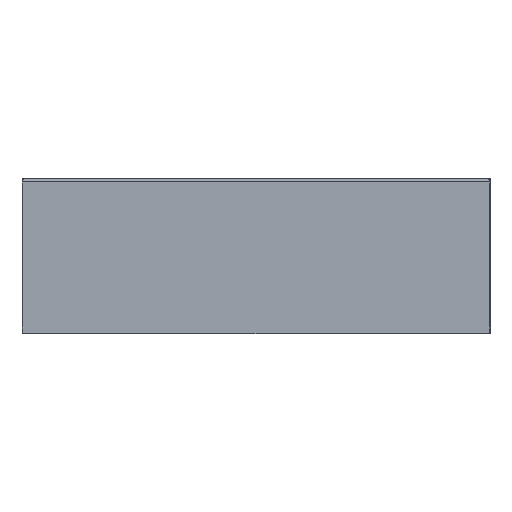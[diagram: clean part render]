
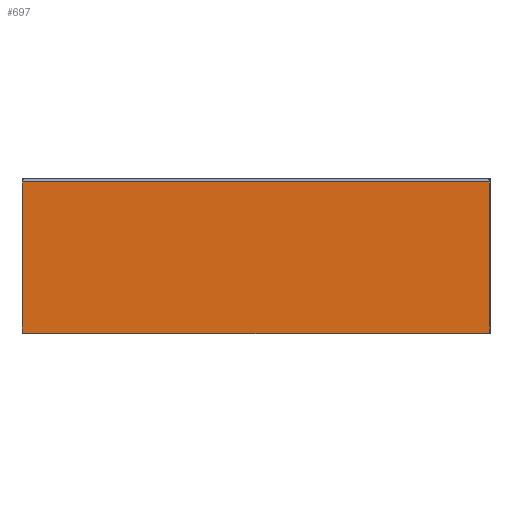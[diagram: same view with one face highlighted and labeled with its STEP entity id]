
A CAD part, front view. The second image highlights one B-rep face of the part: STEP entity #697.
In plain terms, the highlighted planar face has unit normal (0, -1, 0).
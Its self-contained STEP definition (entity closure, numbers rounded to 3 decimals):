
#49 = DIRECTION ( 'NONE',  ( -1., 0., 0. ) ) ;
#64 = ORIENTED_EDGE ( 'NONE', *, *, #374, .F. ) ;
#84 = LINE ( 'NONE', #620, #1060 ) ;
#92 = VECTOR ( 'NONE', #572, 1000. ) ;
#171 = DIRECTION ( 'NONE',  ( 0., -1., 0. ) ) ;
#179 = EDGE_LOOP ( 'NONE', ( #64, #509, #943, #1014 ) ) ;
#194 = PLANE ( 'NONE',  #1471 ) ;
#218 = VERTEX_POINT ( 'NONE', #903 ) ;
#255 = CARTESIAN_POINT ( 'NONE',  ( 747., -20., 247. ) ) ;
#305 = CARTESIAN_POINT ( 'NONE',  ( -747., -20., -247. ) ) ;
#358 = LINE ( 'NONE', #873, #369 ) ;
#369 = VECTOR ( 'NONE', #385, 1000. ) ;
#374 = EDGE_CURVE ( 'NONE', #1108, #1707, #810, .T. ) ;
#385 = DIRECTION ( 'NONE',  ( 1., 0., 0. ) ) ;
#398 = EDGE_CURVE ( 'NONE', #1245, #1108, #358, .T. ) ;
#451 = EDGE_CURVE ( 'NONE', #218, #1245, #84, .T. ) ;
#509 = ORIENTED_EDGE ( 'NONE', *, *, #398, .F. ) ;
#572 = DIRECTION ( 'NONE',  ( 0., 0., -1. ) ) ;
#583 = CARTESIAN_POINT ( 'NONE',  ( -747., -20., 247. ) ) ;
#620 = CARTESIAN_POINT ( 'NONE',  ( -747., -20., 247. ) ) ;
#697 = ADVANCED_FACE ( 'NONE', ( #1374 ), #194, .T. ) ;
#810 = LINE ( 'NONE', #1061, #92 ) ;
#829 = CARTESIAN_POINT ( 'NONE',  ( 747., -20., -247. ) ) ;
#873 = CARTESIAN_POINT ( 'NONE',  ( -747., -20., 247. ) ) ;
#903 = CARTESIAN_POINT ( 'NONE',  ( -747., -20., -247. ) ) ;
#943 = ORIENTED_EDGE ( 'NONE', *, *, #451, .F. ) ;
#1014 = ORIENTED_EDGE ( 'NONE', *, *, #1220, .F. ) ;
#1060 = VECTOR ( 'NONE', #1668, 1000. ) ;
#1061 = CARTESIAN_POINT ( 'NONE',  ( 747., -20., 247. ) ) ;
#1108 = VERTEX_POINT ( 'NONE', #255 ) ;
#1119 = DIRECTION ( 'NONE',  ( 0., 0., -1. ) ) ;
#1220 = EDGE_CURVE ( 'NONE', #1707, #218, #1483, .T. ) ;
#1245 = VERTEX_POINT ( 'NONE', #583 ) ;
#1364 = VECTOR ( 'NONE', #49, 1000. ) ;
#1374 = FACE_OUTER_BOUND ( 'NONE', #179, .T. ) ;
#1471 = AXIS2_PLACEMENT_3D ( 'NONE', #1506, #171, #1119 ) ;
#1483 = LINE ( 'NONE', #305, #1364 ) ;
#1506 = CARTESIAN_POINT ( 'NONE',  ( 0., -20., 0. ) ) ;
#1668 = DIRECTION ( 'NONE',  ( 0., 0., 1. ) ) ;
#1707 = VERTEX_POINT ( 'NONE', #829 ) ;
